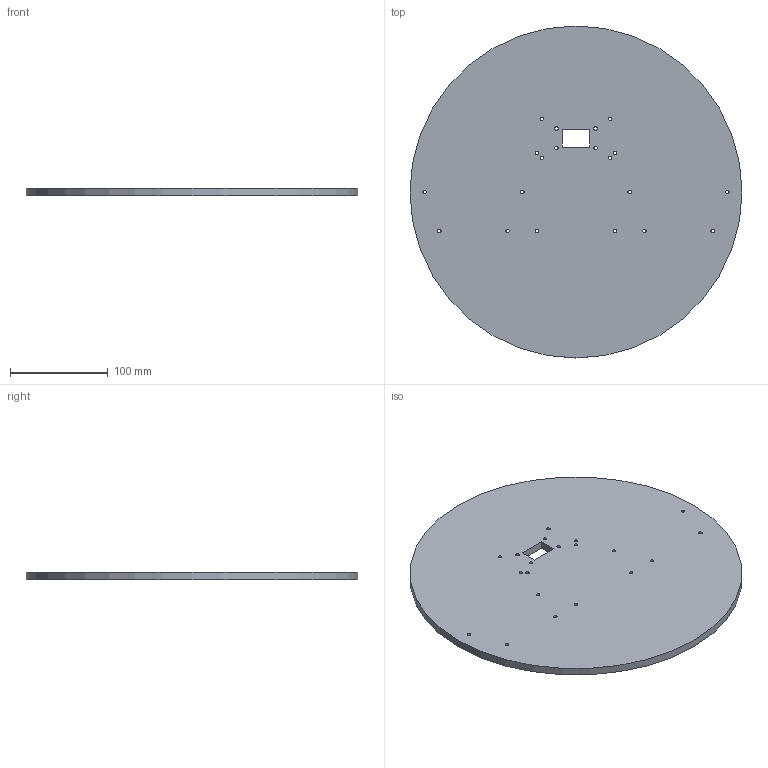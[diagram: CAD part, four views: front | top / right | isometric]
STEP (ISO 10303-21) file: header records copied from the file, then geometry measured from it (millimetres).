
FILE_DESCRIPTION(('Open CASCADE Model'),'2;1');
FILE_NAME('Open CASCADE Shape Model','2026-10-06T17:17:59',('Author'),( 'Open CASCADE'),'Open CASCADE STEP processor 7.8','Open CASCADE 7.8' ,'Unknown');
FILE_SCHEMA(('AUTOMOTIVE_DESIGN { 1 0 10303 214 1 1 1 1 }'));
Length unit declared in the file: millimetre
Products named in the file (1): Open CASCADE STEP translator 7.8 1
Bounding box: 340 x 340 x 8 mm (x, y, z)
Volume: 720675.6 mm3; surface area: 191259.6 mm2
Topology: 1 solids, 1 shells, 27 faces, 75 edges, 50 vertices
Faces by surface type: cylinder 21, plane 6
Full cylindrical faces by diameter (mm): 3.6 x20, 340 x1
Entity records: 1944 total; most frequent: CARTESIAN_POINT 319, DIRECTION 307, ORIENTED_EDGE 150, PCURVE 150, DEFINITIONAL_REPRESENTATION 150, LINE 125, VECTOR 125, CIRCLE 84
